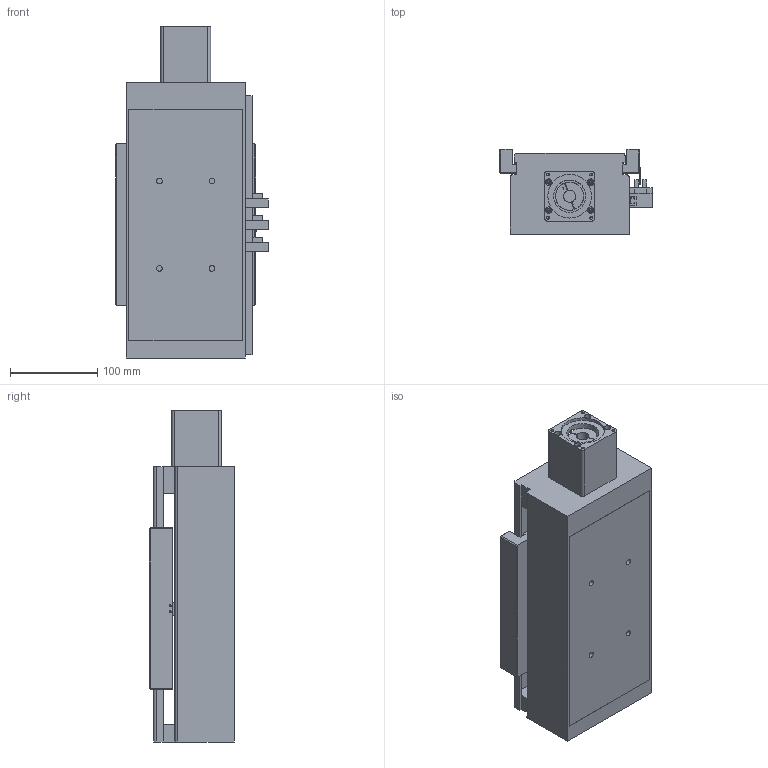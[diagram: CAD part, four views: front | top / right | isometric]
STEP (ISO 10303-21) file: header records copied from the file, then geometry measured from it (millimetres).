
FILE_DESCRIPTION((''),'2;1');
FILE_NAME('E:\libraries\UIA actuator library 2009\standard actuator\UIA136 ball screw 25\UIA136R15NDC-_ _ _-R25_ _, stp file 27Apr16\UIA136R15NDC-050-R25_ _-M60-P13-C10-S.stp','2016-04-28T09:06:09',('h029'),(''),'Autodesk Inventor 11','Autodesk Inventor 11','');
FILE_SCHEMA(('AUTOMOTIVE_DESIGN { 1 0 10303 214 1 1 1 1 }'));
Length unit declared in the file: millimetre
Products named in the file (10): UIA136R15NDC-050; UIA136R15NDC-body; motor mount F60; SOH-32C; SOH-32C-3; SOH-32C-1; SOH-32C-2; Carriage; Sensor Switch; sensor rail
Assembly tree (9 placements, depth 3):
  UIA136R15NDC-050
    UIA136R15NDC-body
    motor mount F60
    SOH-32C
      SOH-32C-3
      SOH-32C-1
      SOH-32C-2
    Carriage
    Sensor Switch
    sensor rail
Bounding box: 174.5 x 98 x 380 mm (x, y, z)
Volume: 2011156.7 mm3; surface area: 463727.4 mm2
Topology: 8 solids, 8 shells, 468 faces, 1259 edges, 822 vertices
Faces by surface type: plane 322, bspline 98, cylinder 44, cone 4
Full cylindrical faces by diameter (mm): 2.459 x2, 3.242 x2, 4.5 x2, 7 x4, 7.5 x2, 14 x3, 17 x1, 32 x3, 37 x1, 50.3 x1, 50.5 x1
Entity records: 15244 total; most frequent: CARTESIAN_POINT 4124, ORIENTED_EDGE 2176, DIRECTION 2130, EDGE_CURVE 1088, VECTOR 808, LINE 808, VERTEX_POINT 758, AXIS2_PLACEMENT_3D 661
